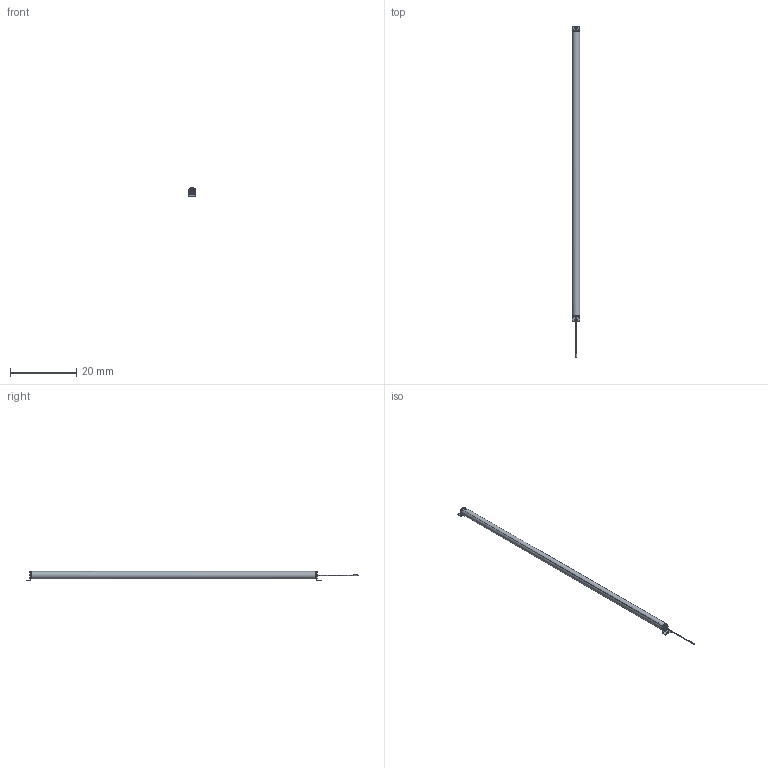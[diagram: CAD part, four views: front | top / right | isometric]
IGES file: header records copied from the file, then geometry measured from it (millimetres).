
Start section:  Autodesk DirectConnect version 7.0.27.0 ---- IGES version 5.3
Global section: file name: C:\ACADFILES\SS_PYLONS\CUSTOMER_FILES\SS-84-PYLON_3D_SMB_PT.iges; native system: Autodesk DirectConnect 7.0.27.0; preprocessor: 7.0.27.0; author: ENGINEERMAIN; organization: Unknown; date: 20150810.130459; units: millimetre
Bounding box: 2.26 x 100.01 x 2.75 mm (x, y, z)
Surface area: 2452.4 mm2 (no closed solid volume)
Topology: 0 solids, 0 shells, 772 faces, 3944 edges, 3944 vertices
Faces by surface type: bspline 772
